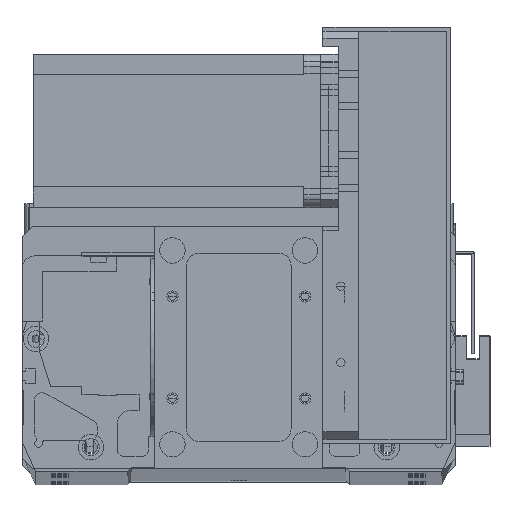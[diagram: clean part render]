
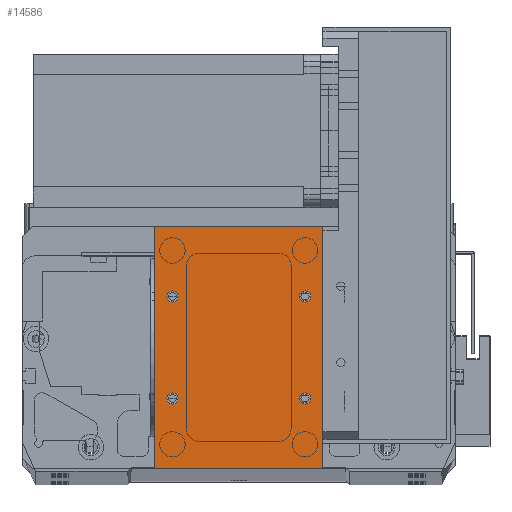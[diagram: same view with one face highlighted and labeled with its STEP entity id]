
A CAD part, top view. The second image highlights one B-rep face of the part: STEP entity #14586.
In plain terms, the highlighted planar face has unit normal (0, 0, 1).
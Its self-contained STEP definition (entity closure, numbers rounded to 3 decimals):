
#214 = EDGE_LOOP ( 'NONE', ( #32130, #11909 ) ) ;
#600 = DIRECTION ( 'NONE',  ( 1., 0., 0. ) ) ;
#661 = CARTESIAN_POINT ( 'NONE',  ( 59., 67.5, 2. ) ) ;
#742 = VERTEX_POINT ( 'NONE', #34382 ) ;
#1025 = DIRECTION ( 'NONE',  ( -1., 0., 0. ) ) ;
#1539 = CARTESIAN_POINT ( 'NONE',  ( 4.75, 27.5, 2. ) ) ;
#2656 = FACE_BOUND ( 'NONE', #12934, .T. ) ;
#2671 = VERTEX_POINT ( 'NONE', #8110 ) ;
#3342 = DIRECTION ( 'NONE',  ( 1., 0., 0. ) ) ;
#3498 = FACE_BOUND ( 'NONE', #25458, .T. ) ;
#3571 = DIRECTION ( 'NONE',  ( 0., 0., 1. ) ) ;
#3584 = PLANE ( 'NONE',  #4003 ) ;
#4003 = AXIS2_PLACEMENT_3D ( 'NONE', #27515, #16925, #1025 ) ;
#4231 = CARTESIAN_POINT ( 'NONE',  ( 7., 27.5, 2. ) ) ;
#4558 = ORIENTED_EDGE ( 'NONE', *, *, #21463, .F. ) ;
#4691 = DIRECTION ( 'NONE',  ( -1., 0., 0. ) ) ;
#5152 = CARTESIAN_POINT ( 'NONE',  ( 0., 0., 2. ) ) ;
#5762 = VERTEX_POINT ( 'NONE', #21679 ) ;
#5826 = VERTEX_POINT ( 'NONE', #30064 ) ;
#6143 = ORIENTED_EDGE ( 'NONE', *, *, #28644, .T. ) ;
#6389 = CARTESIAN_POINT ( 'NONE',  ( 9.25, 67.5, 2. ) ) ;
#6396 = CARTESIAN_POINT ( 'NONE',  ( 56.75, 67.5, 2. ) ) ;
#6895 = DIRECTION ( 'NONE',  ( 1., 0., 0. ) ) ;
#6974 = VECTOR ( 'NONE', #34461, 1000. ) ;
#7056 = VERTEX_POINT ( 'NONE', #29527 ) ;
#7127 = VECTOR ( 'NONE', #12272, 1000. ) ;
#7358 = DIRECTION ( 'NONE',  ( 0., 0., 1. ) ) ;
#7764 = DIRECTION ( 'NONE',  ( 0., 1., 0. ) ) ;
#7798 = LINE ( 'NONE', #5152, #6974 ) ;
#8110 = CARTESIAN_POINT ( 'NONE',  ( 61.25, 27.5, 2. ) ) ;
#8956 = DIRECTION ( 'NONE',  ( 0., 0., 1. ) ) ;
#9097 = AXIS2_PLACEMENT_3D ( 'NONE', #32460, #16487, #600 ) ;
#9704 = FACE_BOUND ( 'NONE', #27492, .T. ) ;
#10413 = CARTESIAN_POINT ( 'NONE',  ( 7., 27.5, 2. ) ) ;
#11569 = VERTEX_POINT ( 'NONE', #33762 ) ;
#11597 = ORIENTED_EDGE ( 'NONE', *, *, #24794, .T. ) ;
#11615 = EDGE_CURVE ( 'NONE', #742, #2671, #29958, .T. ) ;
#11909 = ORIENTED_EDGE ( 'NONE', *, *, #17812, .F. ) ;
#12272 = DIRECTION ( 'NONE',  ( 1., 0., 0. ) ) ;
#12403 = CIRCLE ( 'NONE', #13210, 2.25 ) ;
#12596 = VERTEX_POINT ( 'NONE', #6396 ) ;
#12928 = EDGE_CURVE ( 'NONE', #7056, #5762, #30653, .T. ) ;
#12934 = EDGE_LOOP ( 'NONE', ( #26857, #4558 ) ) ;
#13094 = DIRECTION ( 'NONE',  ( 1., 0., 0. ) ) ;
#13210 = AXIS2_PLACEMENT_3D ( 'NONE', #15419, #34088, #18100 ) ;
#13379 = VERTEX_POINT ( 'NONE', #33448 ) ;
#14586 = ADVANCED_FACE ( 'NONE', ( #9704, #30948, #3498, #2656, #30112 ), #3584, .F. ) ;
#14717 = AXIS2_PLACEMENT_3D ( 'NONE', #19486, #3571, #22131 ) ;
#15419 = CARTESIAN_POINT ( 'NONE',  ( 7., 67.5, 2. ) ) ;
#15468 = AXIS2_PLACEMENT_3D ( 'NONE', #23253, #7358, #25926 ) ;
#16487 = DIRECTION ( 'NONE',  ( 0., 0., 1. ) ) ;
#16925 = DIRECTION ( 'NONE',  ( 0., 0., -1. ) ) ;
#17068 = CIRCLE ( 'NONE', #24430, 2.25 ) ;
#17475 = ORIENTED_EDGE ( 'NONE', *, *, #26294, .F. ) ;
#17812 = EDGE_CURVE ( 'NONE', #12596, #11569, #24938, .T. ) ;
#17897 = CIRCLE ( 'NONE', #14717, 2.25 ) ;
#18100 = DIRECTION ( 'NONE',  ( 1., 0., 0. ) ) ;
#18205 = ORIENTED_EDGE ( 'NONE', *, *, #11615, .F. ) ;
#18944 = EDGE_CURVE ( 'NONE', #11569, #12596, #19808, .T. ) ;
#19236 = DIRECTION ( 'NONE',  ( 0., 0., 1. ) ) ;
#19460 = VECTOR ( 'NONE', #4691, 1000. ) ;
#19486 = CARTESIAN_POINT ( 'NONE',  ( 7., 67.5, 2. ) ) ;
#19808 = CIRCLE ( 'NONE', #9097, 2.25 ) ;
#21241 = LINE ( 'NONE', #33599, #7127 ) ;
#21463 = EDGE_CURVE ( 'NONE', #21483, #23591, #22526, .T. ) ;
#21483 = VERTEX_POINT ( 'NONE', #1539 ) ;
#21624 = ORIENTED_EDGE ( 'NONE', *, *, #23737, .F. ) ;
#21679 = CARTESIAN_POINT ( 'NONE',  ( 66., 95., 2. ) ) ;
#22131 = DIRECTION ( 'NONE',  ( 1., 0., 0. ) ) ;
#22339 = EDGE_CURVE ( 'NONE', #5826, #28511, #17897, .T. ) ;
#22526 = CIRCLE ( 'NONE', #22703, 2.25 ) ;
#22703 = AXIS2_PLACEMENT_3D ( 'NONE', #4231, #22803, #6895 ) ;
#22803 = DIRECTION ( 'NONE',  ( 0., 0., 1. ) ) ;
#23058 = CIRCLE ( 'NONE', #32858, 2.25 ) ;
#23253 = CARTESIAN_POINT ( 'NONE',  ( 59., 27.5, 2. ) ) ;
#23449 = EDGE_LOOP ( 'NONE', ( #31535, #6143, #29717, #11597 ) ) ;
#23591 = VERTEX_POINT ( 'NONE', #30592 ) ;
#23737 = EDGE_CURVE ( 'NONE', #28511, #5826, #12403, .T. ) ;
#24430 = AXIS2_PLACEMENT_3D ( 'NONE', #10413, #29046, #13094 ) ;
#24794 = EDGE_CURVE ( 'NONE', #5762, #13379, #26531, .T. ) ;
#24882 = CARTESIAN_POINT ( 'NONE',  ( 59., 27.5, 2. ) ) ;
#24938 = CIRCLE ( 'NONE', #32850, 2.25 ) ;
#25458 = EDGE_LOOP ( 'NONE', ( #17475, #18205 ) ) ;
#25926 = DIRECTION ( 'NONE',  ( 1., 0., 0. ) ) ;
#26218 = CARTESIAN_POINT ( 'NONE',  ( 66., 0., 2. ) ) ;
#26294 = EDGE_CURVE ( 'NONE', #2671, #742, #23058, .T. ) ;
#26531 = LINE ( 'NONE', #28504, #19460 ) ;
#26857 = ORIENTED_EDGE ( 'NONE', *, *, #28818, .F. ) ;
#27492 = EDGE_LOOP ( 'NONE', ( #21624, #34258 ) ) ;
#27515 = CARTESIAN_POINT ( 'NONE',  ( 0., 0., 2. ) ) ;
#27547 = DIRECTION ( 'NONE',  ( 1., 0., 0. ) ) ;
#28217 = CARTESIAN_POINT ( 'NONE',  ( 0., 0., 2. ) ) ;
#28504 = CARTESIAN_POINT ( 'NONE',  ( 0., 95., 2. ) ) ;
#28511 = VERTEX_POINT ( 'NONE', #6389 ) ;
#28644 = EDGE_CURVE ( 'NONE', #31057, #7056, #21241, .T. ) ;
#28818 = EDGE_CURVE ( 'NONE', #23591, #21483, #17068, .T. ) ;
#29046 = DIRECTION ( 'NONE',  ( 0., 0., 1. ) ) ;
#29527 = CARTESIAN_POINT ( 'NONE',  ( 66., 0., 2. ) ) ;
#29717 = ORIENTED_EDGE ( 'NONE', *, *, #12928, .T. ) ;
#29808 = VECTOR ( 'NONE', #7764, 1000. ) ;
#29958 = CIRCLE ( 'NONE', #15468, 2.25 ) ;
#30064 = CARTESIAN_POINT ( 'NONE',  ( 4.75, 67.5, 2. ) ) ;
#30112 = FACE_OUTER_BOUND ( 'NONE', #23449, .T. ) ;
#30592 = CARTESIAN_POINT ( 'NONE',  ( 9.25, 27.5, 2. ) ) ;
#30653 = LINE ( 'NONE', #26218, #29808 ) ;
#30948 = FACE_BOUND ( 'NONE', #214, .T. ) ;
#31057 = VERTEX_POINT ( 'NONE', #28217 ) ;
#31535 = ORIENTED_EDGE ( 'NONE', *, *, #31874, .T. ) ;
#31874 = EDGE_CURVE ( 'NONE', #13379, #31057, #7798, .T. ) ;
#32130 = ORIENTED_EDGE ( 'NONE', *, *, #18944, .F. ) ;
#32460 = CARTESIAN_POINT ( 'NONE',  ( 59., 67.5, 2. ) ) ;
#32850 = AXIS2_PLACEMENT_3D ( 'NONE', #661, #19236, #3342 ) ;
#32858 = AXIS2_PLACEMENT_3D ( 'NONE', #24882, #8956, #27547 ) ;
#33448 = CARTESIAN_POINT ( 'NONE',  ( 0., 95., 2. ) ) ;
#33599 = CARTESIAN_POINT ( 'NONE',  ( 0., 0., 2. ) ) ;
#33762 = CARTESIAN_POINT ( 'NONE',  ( 61.25, 67.5, 2. ) ) ;
#34088 = DIRECTION ( 'NONE',  ( 0., 0., 1. ) ) ;
#34258 = ORIENTED_EDGE ( 'NONE', *, *, #22339, .F. ) ;
#34382 = CARTESIAN_POINT ( 'NONE',  ( 56.75, 27.5, 2. ) ) ;
#34461 = DIRECTION ( 'NONE',  ( 0., -1., 0. ) ) ;
